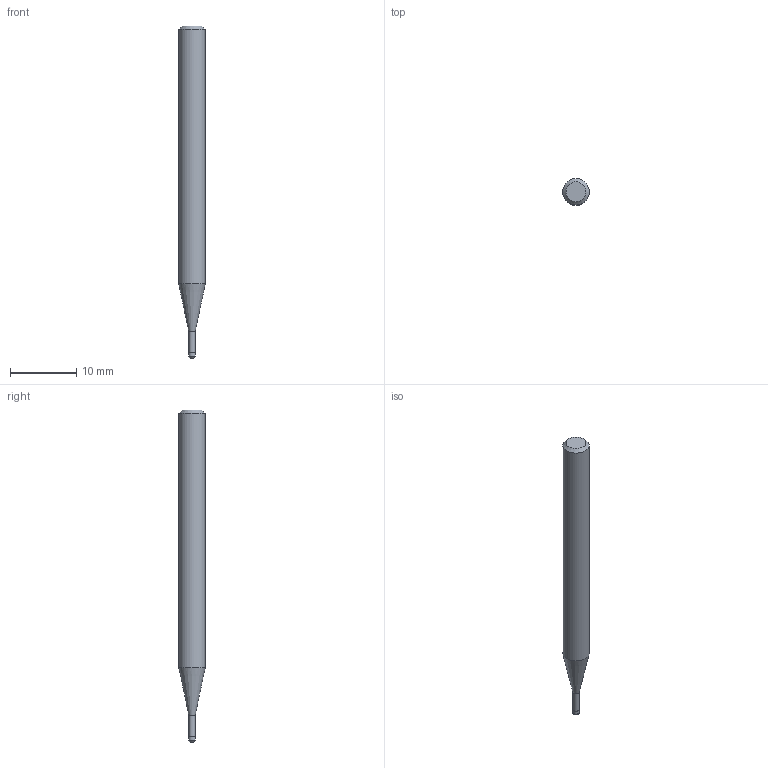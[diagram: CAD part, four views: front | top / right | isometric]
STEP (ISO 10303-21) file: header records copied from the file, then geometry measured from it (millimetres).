
FILE_DESCRIPTION((''),'2;1');
FILE_NAME('C:\Users\nsx150\AppData\Local\Temp\Mastercam 2021\3SYKECWX22\TEMP.step','2021-04-22T09:47:29',(''),(''),'STEP Write','Mastercam 2021 ... CNC Software, Inc.','');
FILE_SCHEMA(('AUTOMOTIVE_DESIGN'));
Length unit declared in the file: millimetre
Products named in the file (1): None
Bounding box: 4 x 4 x 50 mm (x, y, z)
Volume: 528.2 mm3; surface area: 567.4 mm2
Topology: 2 solids, 2 shells, 10 faces, 14 edges, 8 vertices
Faces by surface type: plane 4, cylinder 3, cone 2, torus 1
Full cylindrical faces by diameter (mm): 0.95 x1, 1 x1, 4 x1
Entity records: 232 total; most frequent: DIRECTION 40, CARTESIAN_POINT 28, AXIS2_PLACEMENT_3D 20, ORIENTED_EDGE 16, EDGE_LOOP 16, STYLED_ITEM 13, ADVANCED_FACE 10, FACE_BOUND 10
